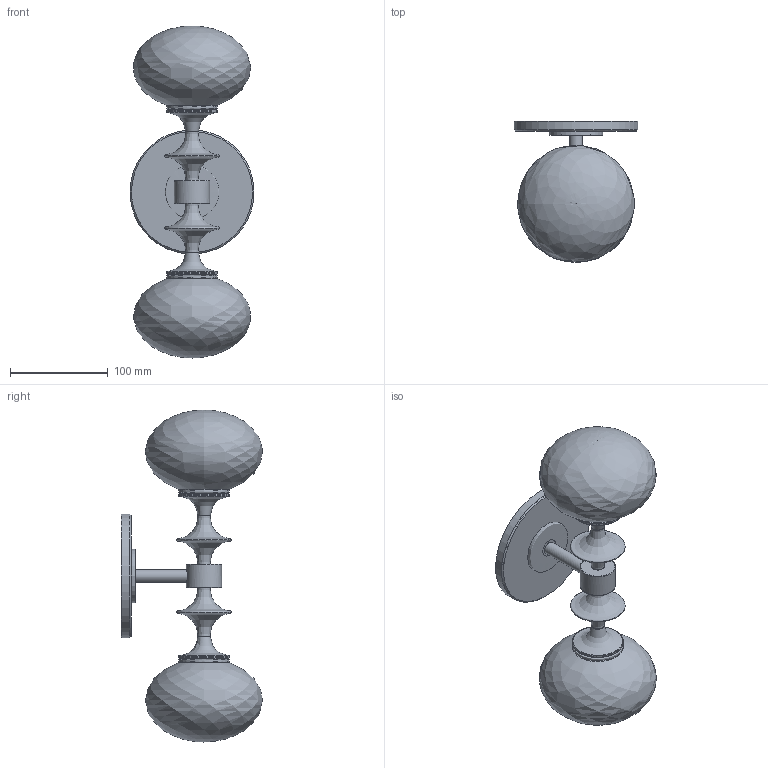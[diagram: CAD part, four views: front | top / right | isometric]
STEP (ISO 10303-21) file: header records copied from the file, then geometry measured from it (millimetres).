
FILE_DESCRIPTION(/* description */ (''),/* implementation_level */ '2;1');
FILE_NAME(/* name */ 'SkLO_AvroKO_PerlaSconce_Profile2_LT627_3D',/* time_stamp */ '2025-08-04T15:00:03+02:00',/* author */ (''),/* organization */ (''),/* preprocessor_version */ 'ST-DEVELOPER v16.5',/* originating_system */ 'Rhino 7.38',/* authorisation */ '');
FILE_SCHEMA (('CONFIG_CONTROL_DESIGN'));
Length unit declared in the file: millimetre
Products named in the file (1): Document
Bounding box: 126.95 x 144.5 x 340 mm (x, y, z)
Volume: 431884 mm3; surface area: 238765.9 mm2
Topology: 16 solids, 20 shells, 185 faces, 454 edges, 245 vertices
Faces by surface type: bspline 93, plane 48, cylinder 44
Full cylindrical faces by diameter (mm): 11.008 x2, 13 x2, 18.275 x1, 20 x2, 21 x2, 24 x2, 27.5 x2, 29.988 x2, 30.8 x4, 36 x3, 46 x2, 52 x2, 124 x1, 127 x1
Entity records: 8444 total; most frequent: CARTESIAN_POINT 5957, ORIENTED_EDGE 728, EDGE_CURVE 374, VERTEX_POINT 245, EDGE_LOOP 213, ADVANCED_FACE 185, FACE_OUTER_BOUND 185, B_SPLINE_CURVE_WITH_KNOTS 118
